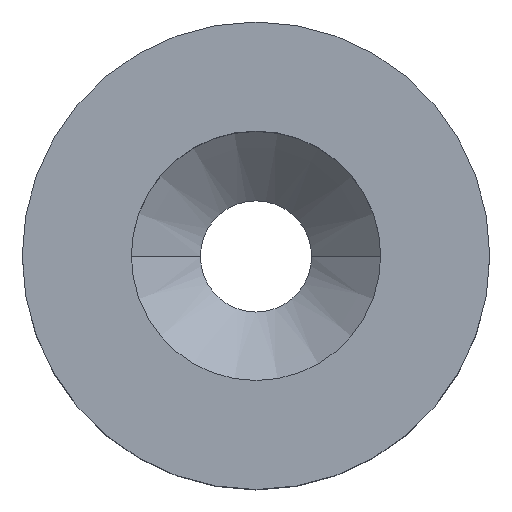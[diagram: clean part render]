
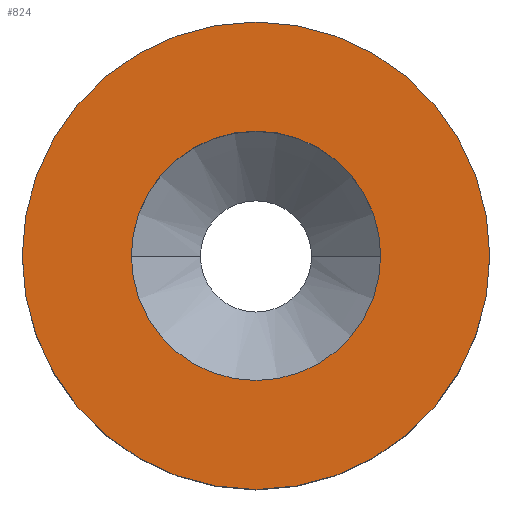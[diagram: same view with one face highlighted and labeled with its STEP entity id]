
A CAD part, top view. The second image highlights one B-rep face of the part: STEP entity #824.
In plain terms, the highlighted planar face has unit normal (0, 0, 1).
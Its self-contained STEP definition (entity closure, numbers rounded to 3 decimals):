
#5 = CARTESIAN_POINT ( 'NONE',  ( 0., 0., 0. ) ) ;
#26 = DIRECTION ( 'NONE',  ( 1., 0., 0. ) ) ;
#53 = CIRCLE ( 'NONE', #355, 7.5 ) ;
#70 = FACE_OUTER_BOUND ( 'NONE', #755, .T. ) ;
#104 = CARTESIAN_POINT ( 'NONE',  ( 0., 0., 0. ) ) ;
#122 = DIRECTION ( 'NONE',  ( 0., 0., -1. ) ) ;
#179 = VERTEX_POINT ( 'NONE', #366 ) ;
#208 = DIRECTION ( 'NONE',  ( 1., 0., 0. ) ) ;
#289 = ORIENTED_EDGE ( 'NONE', *, *, #960, .F. ) ;
#310 = AXIS2_PLACEMENT_3D ( 'NONE', #691, #122, #604 ) ;
#341 = CARTESIAN_POINT ( 'NONE',  ( 0., 0., 0. ) ) ;
#355 = AXIS2_PLACEMENT_3D ( 'NONE', #5, #455, #913 ) ;
#361 = VERTEX_POINT ( 'NONE', #781 ) ;
#366 = CARTESIAN_POINT ( 'NONE',  ( -7.5, 0., 0. ) ) ;
#385 = VERTEX_POINT ( 'NONE', #386 ) ;
#386 = CARTESIAN_POINT ( 'NONE',  ( 7.5, 0., 0. ) ) ;
#406 = ORIENTED_EDGE ( 'NONE', *, *, #863, .T. ) ;
#412 = DIRECTION ( 'NONE',  ( 1., 0., 0. ) ) ;
#432 = EDGE_CURVE ( 'NONE', #385, #179, #523, .T. ) ;
#455 = DIRECTION ( 'NONE',  ( 0., 0., 1. ) ) ;
#484 = DIRECTION ( 'NONE',  ( 0., 0., 1. ) ) ;
#519 = ORIENTED_EDGE ( 'NONE', *, *, #659, .F. ) ;
#523 = CIRCLE ( 'NONE', #854, 7.5 ) ;
#604 = DIRECTION ( 'NONE',  ( -1., 0., 0. ) ) ;
#657 = EDGE_LOOP ( 'NONE', ( #519, #289 ) ) ;
#659 = EDGE_CURVE ( 'NONE', #961, #361, #668, .T. ) ;
#668 = CIRCLE ( 'NONE', #826, 4. ) ;
#680 = ORIENTED_EDGE ( 'NONE', *, *, #432, .T. ) ;
#683 = FACE_BOUND ( 'NONE', #657, .T. ) ;
#691 = CARTESIAN_POINT ( 'NONE',  ( 0., 0., 0. ) ) ;
#755 = EDGE_LOOP ( 'NONE', ( #680, #406 ) ) ;
#764 = PLANE ( 'NONE',  #310 ) ;
#781 = CARTESIAN_POINT ( 'NONE',  ( -4., 0., 0. ) ) ;
#816 = AXIS2_PLACEMENT_3D ( 'NONE', #104, #484, #26 ) ;
#824 = ADVANCED_FACE ( 'NONE', ( #683, #70 ), #764, .F. ) ;
#826 = AXIS2_PLACEMENT_3D ( 'NONE', #341, #878, #412 ) ;
#840 = DIRECTION ( 'NONE',  ( 0., 0., 1. ) ) ;
#854 = AXIS2_PLACEMENT_3D ( 'NONE', #920, #840, #208 ) ;
#863 = EDGE_CURVE ( 'NONE', #179, #385, #53, .T. ) ;
#878 = DIRECTION ( 'NONE',  ( 0., 0., 1. ) ) ;
#913 = DIRECTION ( 'NONE',  ( 1., 0., 0. ) ) ;
#920 = CARTESIAN_POINT ( 'NONE',  ( 0., 0., 0. ) ) ;
#936 = CIRCLE ( 'NONE', #816, 4. ) ;
#951 = CARTESIAN_POINT ( 'NONE',  ( 4., 0., 0. ) ) ;
#960 = EDGE_CURVE ( 'NONE', #361, #961, #936, .T. ) ;
#961 = VERTEX_POINT ( 'NONE', #951 ) ;
